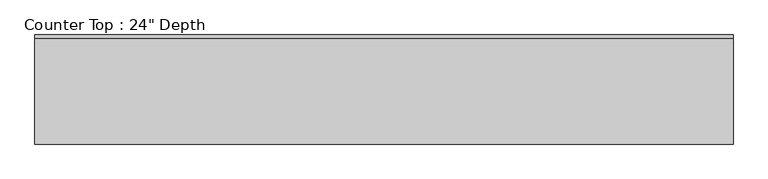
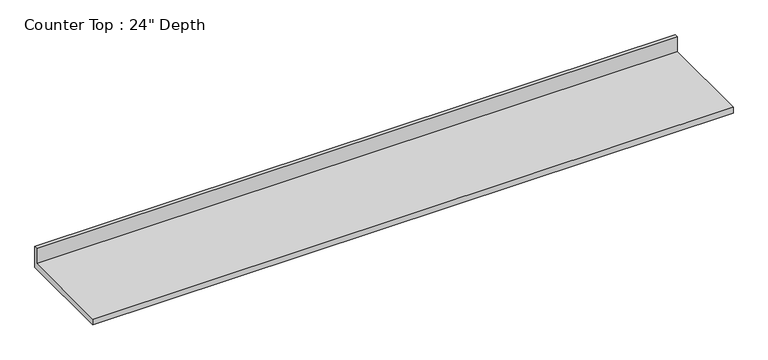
"""IFC4 building model written with IfcOpenShell, lengths in millimetres: furniture geometry."""

from ifc_helpers import new_model, si_unit, frame, origin, place, context, project, spatial, polyline, outline, extrude, source, transform, mapped, element, save


def furniture_e9891702(model_context):
    return source(origin(), model_context, "Body", "SweptSolid", [
        extrude(outline(polyline([(0.0, 1016.0), (0.0, 876.3), (-635.0, 876.3), (-635.0, 914.4), (-19.05, 914.4), (-19.05, 1016.0), (0.0, 1016.0)])), frame((-1200.4622951, 0.0, 0.0), z_axis=(1.0, 0.0, 0.0), x_axis=(0.0, 1.0, 0.0)), (0.0, 0.0, 1.0), 4064.0),
    ])


if __name__ == "__main__":
    model = new_model("IFC4")
    model_context = context("Model", 3, world=origin())
    ifc_project = project(units=[si_unit("LENGTHUNIT", "METRE", prefix="MILLI")], contexts=[model_context])
    site = spatial("IfcSite", under=ifc_project)
    building = spatial("IfcBuilding", under=site)
    placement = place(None, origin())
    furniture_shape = furniture_e9891702(model_context)
    element("IfcFurniture", 1, ObjectType="Counter Top : 24\" Depth", at=placement, inside=building, context=model_context, shape_type="MappedRepresentation", body=[
        mapped(furniture_shape, transform((0.0, 0.0, 0.0), x_axis=(1.0, 0.0, 0.0), y_axis=(0.0, 1.0, 0.0), z_axis=(0.0, 0.0, 1.0))),
    ])
    save(model, "model.ifc")
